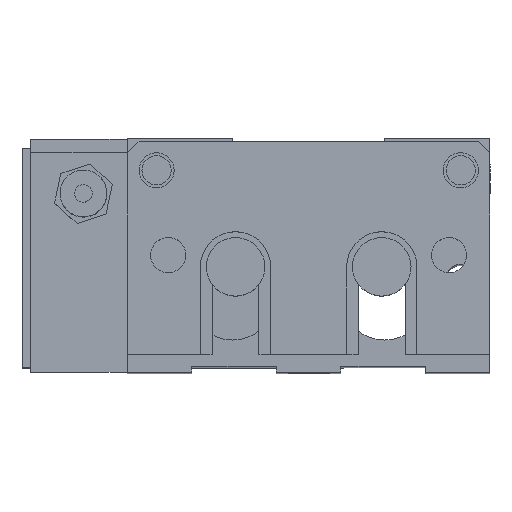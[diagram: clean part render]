
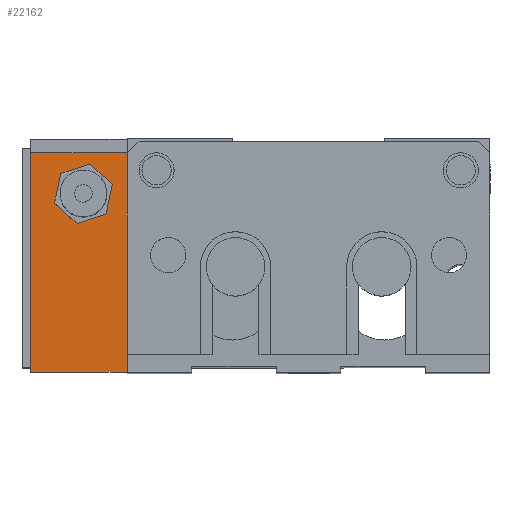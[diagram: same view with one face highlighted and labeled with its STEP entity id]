
A CAD part, top view. The second image highlights one B-rep face of the part: STEP entity #22162.
In plain terms, the highlighted planar face has unit normal (0, 0, 1) as drawn and (0, 0, -1) by its records, which use the part's own axes.
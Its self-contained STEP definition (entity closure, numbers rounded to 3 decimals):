
#12782 = CARTESIAN_POINT ( 'NONE',  ( 1.5, 37.5, 0. ) ) ;
#12818 = DIRECTION ( 'NONE',  ( -1., 0., 0. ) ) ;
#12819 = VECTOR ( 'NONE', #12818, 1000. ) ;
#12820 = CARTESIAN_POINT ( 'NONE',  ( 0., 37.5, 0. ) ) ;
#12821 = LINE ( 'NONE', #12820, #12819 ) ;
#12834 = CARTESIAN_POINT ( 'NONE',  ( 18., 37.5, 0. ) ) ;
#12849 = CARTESIAN_POINT ( 'NONE',  ( 1.5, 22.5, 0. ) ) ;
#12853 = PLANE ( 'NONE',  #12859 ) ;
#12855 = CARTESIAN_POINT ( 'NONE',  ( 0., 22.5, 0. ) ) ;
#12859 = AXIS2_PLACEMENT_3D ( 'NONE', #12903, #12888, #12887 ) ;
#12872 = DIRECTION ( 'NONE',  ( 0., 1., 0. ) ) ;
#12873 = VECTOR ( 'NONE', #12872, 1000. ) ;
#12875 = CARTESIAN_POINT ( 'NONE',  ( 18., 0., 0. ) ) ;
#12876 = LINE ( 'NONE', #12875, #12873 ) ;
#12881 = DIRECTION ( 'NONE',  ( 0., 1., 0. ) ) ;
#12882 = VECTOR ( 'NONE', #12881, 1000. ) ;
#12883 = CARTESIAN_POINT ( 'NONE',  ( 1.5, 22.5, 0. ) ) ;
#12884 = LINE ( 'NONE', #12883, #12882 ) ;
#12887 = DIRECTION ( 'NONE',  ( -1., 0., 0. ) ) ;
#12888 = DIRECTION ( 'NONE',  ( 0., 0., -1. ) ) ;
#12895 = DIRECTION ( 'NONE',  ( 1., 0., 0. ) ) ;
#12897 = DIRECTION ( 'NONE',  ( 0., 0., 1. ) ) ;
#12899 = FACE_BOUND ( 'NONE', #22155, .T. ) ;
#12900 = AXIS2_PLACEMENT_3D ( 'NONE', #12907, #12897, #12895 ) ;
#12901 = CIRCLE ( 'NONE', #12900, 4. ) ;
#12903 = CARTESIAN_POINT ( 'NONE',  ( 0., 37.5, 0. ) ) ;
#12904 = FACE_OUTER_BOUND ( 'NONE', #22116, .T. ) ;
#12905 = LINE ( 'NONE', #12855, #12914 ) ;
#12907 = CARTESIAN_POINT ( 'NONE',  ( 9., 30.5, 0. ) ) ;
#12908 = DIRECTION ( 'NONE',  ( -1., 0., 0. ) ) ;
#12914 = VECTOR ( 'NONE', #12908, 1000. ) ;
#13570 = LINE ( 'NONE', #13678, #13677 ) ;
#13626 = CARTESIAN_POINT ( 'NONE',  ( 0., 22.5, 0. ) ) ;
#13675 = DIRECTION ( 'NONE',  ( 0., -1., 0. ) ) ;
#13677 = VECTOR ( 'NONE', #13675, 1000. ) ;
#13678 = CARTESIAN_POINT ( 'NONE',  ( 0., 0., 0. ) ) ;
#13716 = CARTESIAN_POINT ( 'NONE',  ( 0., 0., 0. ) ) ;
#13828 = DIRECTION ( 'NONE',  ( 1., 0., 0. ) ) ;
#13829 = VECTOR ( 'NONE', #13828, 1000. ) ;
#13832 = CARTESIAN_POINT ( 'NONE',  ( 0., 0., 0. ) ) ;
#13833 = LINE ( 'NONE', #13832, #13829 ) ;
#15281 = CARTESIAN_POINT ( 'NONE',  ( 5., 30.5, 0. ) ) ;
#15296 = AXIS2_PLACEMENT_3D ( 'NONE', #15352, #15351, #15350 ) ;
#15299 = CIRCLE ( 'NONE', #15296, 4. ) ;
#15350 = DIRECTION ( 'NONE',  ( 1., 0., 0. ) ) ;
#15351 = DIRECTION ( 'NONE',  ( 0., 0., 1. ) ) ;
#15352 = CARTESIAN_POINT ( 'NONE',  ( 9., 30.5, 0. ) ) ;
#15354 = CARTESIAN_POINT ( 'NONE',  ( 13., 30.5, 0. ) ) ;
#15430 = CARTESIAN_POINT ( 'NONE',  ( 18., 0., 0. ) ) ;
#20994 = VERTEX_POINT ( 'NONE', #12782 ) ;
#21045 = ORIENTED_EDGE ( 'NONE', *, *, #22483, .F. ) ;
#21549 = VERTEX_POINT ( 'NONE', #12834 ) ;
#21803 = EDGE_CURVE ( 'NONE', #21549, #20994, #12821, .T. ) ;
#21984 = ORIENTED_EDGE ( 'NONE', *, *, #22169, .T. ) ;
#22113 = EDGE_CURVE ( 'NONE', #24797, #21549, #12876, .T. ) ;
#22116 = EDGE_LOOP ( 'NONE', ( #21984, #22153, #22156, #21045, #22140, #22159 ) ) ;
#22136 = VERTEX_POINT ( 'NONE', #12849 ) ;
#22140 = ORIENTED_EDGE ( 'NONE', *, *, #22475, .F. ) ;
#22149 = EDGE_CURVE ( 'NONE', #22136, #22477, #12905, .T. ) ;
#22153 = ORIENTED_EDGE ( 'NONE', *, *, #21803, .F. ) ;
#22154 = EDGE_CURVE ( 'NONE', #23187, #23165, #12901, .T. ) ;
#22155 = EDGE_LOOP ( 'NONE', ( #22174, #22173 ) ) ;
#22156 = ORIENTED_EDGE ( 'NONE', *, *, #22113, .F. ) ;
#22159 = ORIENTED_EDGE ( 'NONE', *, *, #22149, .F. ) ;
#22162 = ADVANCED_FACE ( 'NONE', ( #12904, #12899 ), #12853, .T. ) ;
#22169 = EDGE_CURVE ( 'NONE', #22136, #20994, #12884, .T. ) ;
#22173 = ORIENTED_EDGE ( 'NONE', *, *, #23186, .T. ) ;
#22174 = ORIENTED_EDGE ( 'NONE', *, *, #22154, .T. ) ;
#22471 = VERTEX_POINT ( 'NONE', #13716 ) ;
#22475 = EDGE_CURVE ( 'NONE', #22477, #22471, #13570, .T. ) ;
#22477 = VERTEX_POINT ( 'NONE', #13626 ) ;
#22483 = EDGE_CURVE ( 'NONE', #22471, #24797, #13833, .T. ) ;
#23165 = VERTEX_POINT ( 'NONE', #15281 ) ;
#23186 = EDGE_CURVE ( 'NONE', #23165, #23187, #15299, .T. ) ;
#23187 = VERTEX_POINT ( 'NONE', #15354 ) ;
#24797 = VERTEX_POINT ( 'NONE', #15430 ) ;
